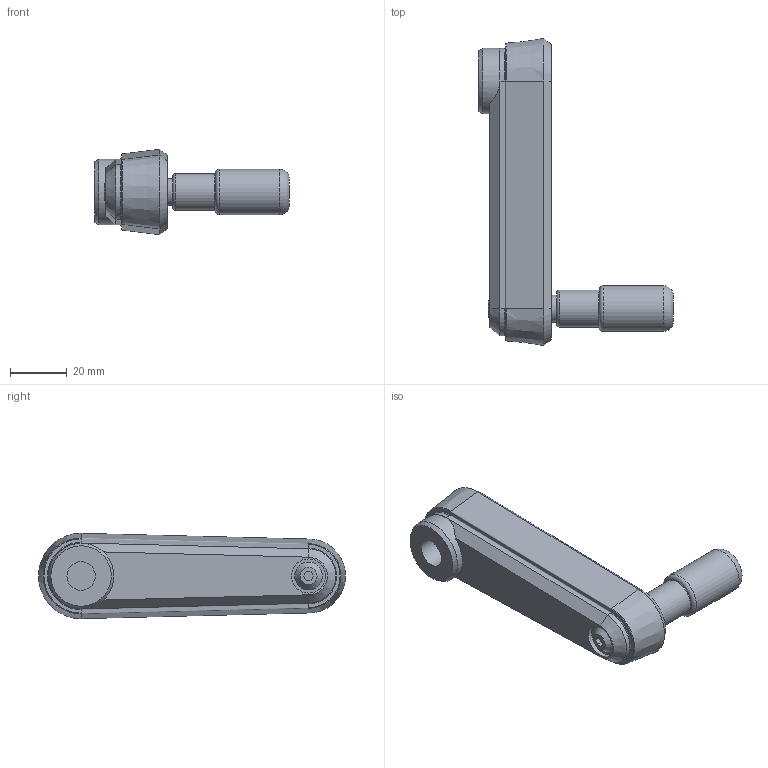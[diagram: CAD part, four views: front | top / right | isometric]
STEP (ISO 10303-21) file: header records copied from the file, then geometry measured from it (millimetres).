
FILE_DESCRIPTION( ( 'STEP AP203' ), '1' );
FILE_NAME( 'C:/Temp/Ganter_Step_05_03_2020/data/1_3/gn_472_3/Cranked handle with retractable handle GN 472.3-80-B10-SW (activated).stp', '2020-03-05T10:45:48', ( 'License CC BY-ND 4.0' ), ( 'CADENAS' ), ' ', 'PARTsolutions', ' ' );
FILE_SCHEMA( ( 'CONFIG_CONTROL_DESIGN' ) );
Length unit declared in the file: millimetre
Products named in the file (3): Cranked handle with retractable handle GN 472.3-80-B10-SW (activated); _Cranked handle with retractable handle GN 472.3-80-B10-SW (90)-1; _Cranked handle with retractable handle GN 472.3-80-B10-SW (90)-2
Assembly tree (2 placements, depth 2):
  Cranked handle with retractable handle GN 472.3-80-B10-SW (activated)
    _Cranked handle with retractable handle GN 472.3-80-B10-SW (90)-1
    _Cranked handle with retractable handle GN 472.3-80-B10-SW (90)-2
Bounding box: 68.56 x 108 x 30 mm (x, y, z)
Volume: 42837.6 mm3; surface area: 17680.7 mm2
Topology: 2 solids, 3 shells, 96 faces, 228 edges, 148 vertices
Faces by surface type: plane 44, cylinder 28, torus 11, cone 10, bspline 2, sphere 1
Full cylindrical faces by diameter (mm): 3 x2, 8 x1, 9.5 x1, 10 x1, 12 x1, 13 x1, 16 x1, 16.02 x1, 20 x2, 23 x1
Entity records: 2866 total; most frequent: CARTESIAN_POINT 644, DIRECTION 444, ORIENTED_EDGE 404, EDGE_CURVE 202, AXIS2_PLACEMENT_3D 181, VERTEX_POINT 143, EDGE_LOOP 130, FACE_OUTER_BOUND 113
